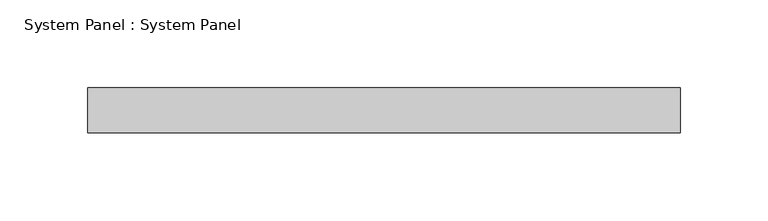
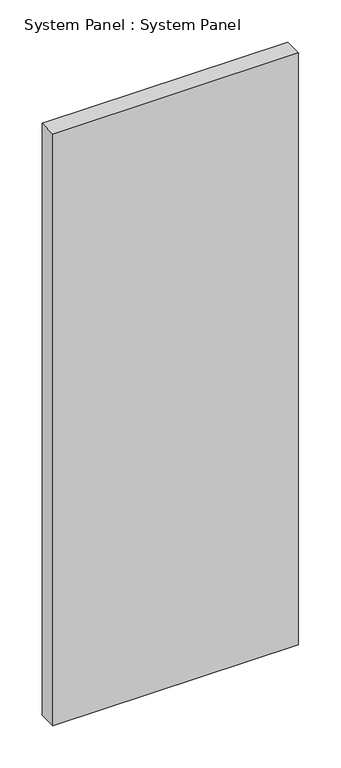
"""IFC4 building model written with IfcOpenShell, lengths in millimetres: plate geometry, System Panel : System Panel."""

from ifc_helpers import new_model, si_unit, origin, origin_with_axes, place, context, project, spatial, polyline, outline, extrude, source, transform, mapped, element, save


def system_panel_system_panel_630169c6(model_context):
    return source(origin(), model_context, "Body", "SweptSolid", [
        extrude(outline(polyline([(168.275, 19.05), (-168.275, 19.05), (-168.275, 44.45), (168.275, 44.45), (168.275, 19.05)])), origin_with_axes(), (0.0, 0.0, 1.0), 857.25),
    ])


if __name__ == "__main__":
    model = new_model("IFC4")
    model_context = context("Model", 3, world=origin())
    ifc_project = project(units=[si_unit("LENGTHUNIT", "METRE", prefix="MILLI")], contexts=[model_context])
    site = spatial("IfcSite", under=ifc_project)
    building = spatial("IfcBuilding", under=site)
    placement = place(None, origin())
    system_panel_system_panel_shape = system_panel_system_panel_630169c6(model_context)
    element("IfcPlate", 1, ObjectType="System Panel : System Panel", at=placement, inside=building, context=model_context, shape_type="MappedRepresentation", body=[
        mapped(system_panel_system_panel_shape, transform((0.0, 0.0, 0.0), x_axis=(1.0, 0.0, 0.0), y_axis=(0.0, 1.0, 0.0), z_axis=(0.0, 0.0, 1.0))),
    ])
    save(model, "model.ifc")
